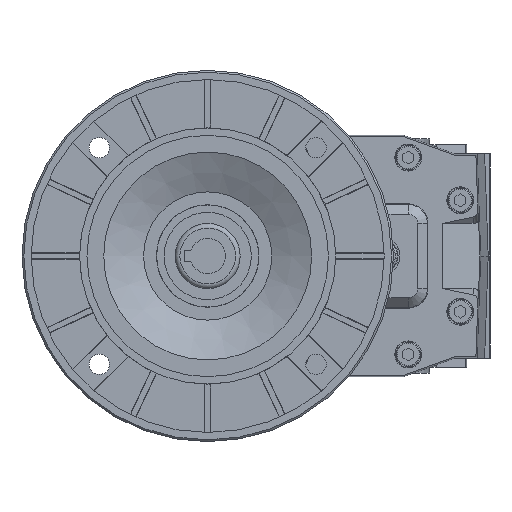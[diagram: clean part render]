
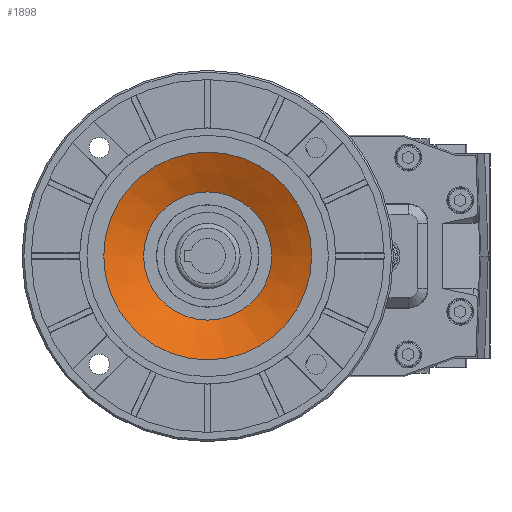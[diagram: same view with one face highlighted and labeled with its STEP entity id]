
A CAD part, left-side view. The second image highlights one B-rep face of the part: STEP entity #1898.
In plain terms, the highlighted conical face has half-angle 65 degrees and reference radius 34.514 mm.
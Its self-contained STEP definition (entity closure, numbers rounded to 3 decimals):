
#1898 = ADVANCED_FACE( '', ( #4625, #4626 ), #4627, .F. );
#4625 = FACE_OUTER_BOUND( '', #8800, .T. );
#4626 = FACE_BOUND( '', #8801, .T. );
#4627 = CONICAL_SURFACE( '', #8802, 34.514, 1.134 );
#8800 = EDGE_LOOP( '', ( #15164 ) );
#8801 = EDGE_LOOP( '', ( #15165 ) );
#8802 = AXIS2_PLACEMENT_3D( '', #15166, #15167, #15168 );
#15164 = ORIENTED_EDGE( '', *, *, #23366, .F. );
#15165 = ORIENTED_EDGE( '', *, *, #22153, .T. );
#15166 = CARTESIAN_POINT( '', ( -232., 72., 0. ) );
#15167 = DIRECTION( '', ( -1., 0., 0. ) );
#15168 = DIRECTION( '', ( 0., 1., 0. ) );
#22153 = EDGE_CURVE( '', #26351, #26351, #26352, .T. );
#23366 = EDGE_CURVE( '', #28279, #28279, #28280, .T. );
#26351 = VERTEX_POINT( '', #32404 );
#26352 = CIRCLE( '', #32405, 34.514 );
#28279 = VERTEX_POINT( '', #36102 );
#28280 = CIRCLE( '', #36103, 55.959 );
#32404 = CARTESIAN_POINT( '', ( -232., 37.486, 0. ) );
#32405 = AXIS2_PLACEMENT_3D( '', #40337, #40338, #40339 );
#36102 = CARTESIAN_POINT( '', ( -242., 127.959, 0. ) );
#36103 = AXIS2_PLACEMENT_3D( '', #41541, #41542, #41543 );
#40337 = CARTESIAN_POINT( '', ( -232., 72., 0. ) );
#40338 = DIRECTION( '', ( 1., 0., 0. ) );
#40339 = DIRECTION( '', ( 0., -1., 0. ) );
#41541 = CARTESIAN_POINT( '', ( -242., 72., 0. ) );
#41542 = DIRECTION( '', ( 1., 0., 0. ) );
#41543 = DIRECTION( '', ( 0., 1., 0. ) );
